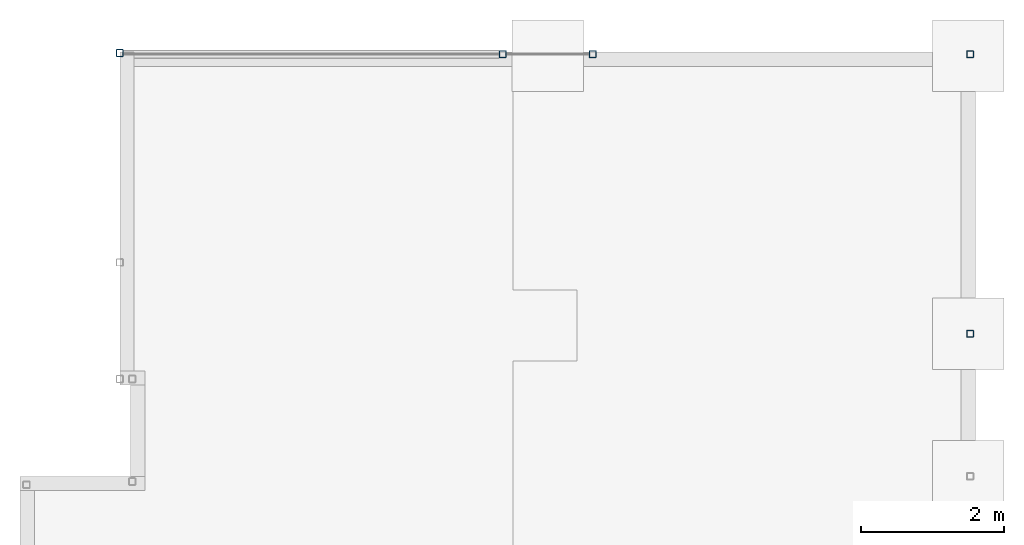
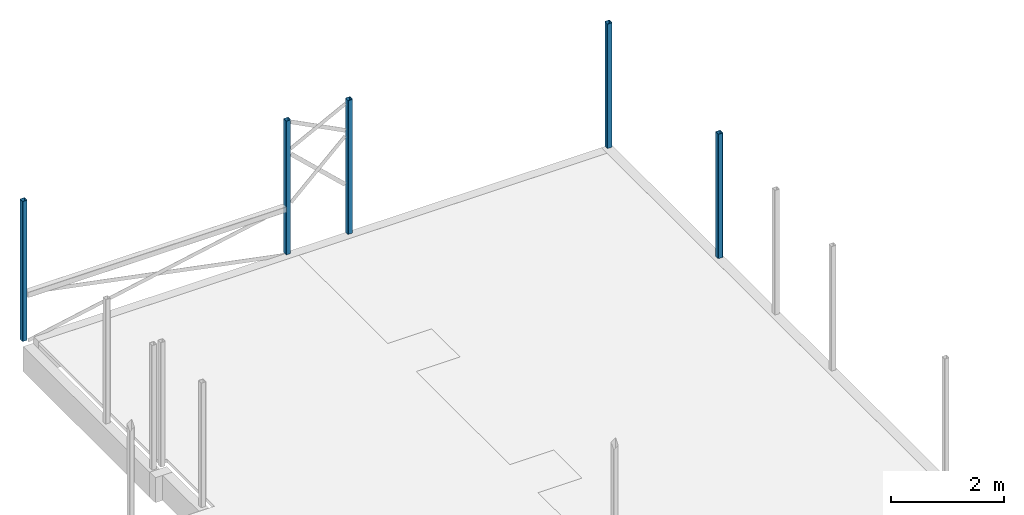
# One storey, part 3 of 5: 5 columns.
"""IFC2X3 building model written with IfcOpenShell, lengths in millimetres."""

from ifc_helpers import new_model, entity, si_unit, converted_unit, derived_unit, direction, frame, frame_2d, origin, place, context, subcontext, project, spatial, polyline, circle_curve, parameter, trimmed, segment, composite_curve, outline, extrude, source, transform, mapped, material, type_object, type_shapes, element, save


model = new_model("IFC2X3")

# Units and contexts
model_context = context("Model", 3, precision=0.01, world=origin(), true_north=direction((6.12303176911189e-17, 1.0)))
body_context = subcontext(model_context, "Body", "Model", "MODEL_VIEW")
ifc_project = project(units=[si_unit("LENGTHUNIT", "METRE", prefix="MILLI"), si_unit("AREAUNIT", "SQUARE_METRE"), si_unit("VOLUMEUNIT", "CUBIC_METRE"), converted_unit("PLANEANGLEUNIT", "DEGREE", entity("IfcRatioMeasure", 0.0174532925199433), si_unit("PLANEANGLEUNIT", "RADIAN"), dimensions=[0, 0, 0, 0, 0, 0, 0]), si_unit("MASSUNIT", "GRAM", prefix="KILO"), derived_unit("MASSDENSITYUNIT", [(si_unit("MASSUNIT", "GRAM", prefix="KILO"), 1), (si_unit("LENGTHUNIT", "METRE"), -3)]), si_unit("TIMEUNIT", "SECOND"), si_unit("FREQUENCYUNIT", "HERTZ"), si_unit("THERMODYNAMICTEMPERATUREUNIT", "DEGREE_CELSIUS"), derived_unit("THERMALTRANSMITTANCEUNIT", [(si_unit("MASSUNIT", "GRAM", prefix="KILO"), 1), (si_unit("THERMODYNAMICTEMPERATUREUNIT", "KELVIN"), -1), (si_unit("TIMEUNIT", "SECOND"), -3)]), derived_unit("VOLUMETRICFLOWRATEUNIT", [(si_unit("LENGTHUNIT", "METRE"), 3), (si_unit("TIMEUNIT", "SECOND"), -1)]), si_unit("ELECTRICCURRENTUNIT", "AMPERE"), si_unit("ELECTRICVOLTAGEUNIT", "VOLT"), si_unit("POWERUNIT", "WATT"), si_unit("FORCEUNIT", "NEWTON", prefix="KILO"), si_unit("ILLUMINANCEUNIT", "LUX"), si_unit("LUMINOUSFLUXUNIT", "LUMEN"), si_unit("LUMINOUSINTENSITYUNIT", "CANDELA"), derived_unit("USERDEFINED", [(si_unit("MASSUNIT", "GRAM", prefix="KILO"), -1), (si_unit("LENGTHUNIT", "METRE"), -2), (si_unit("TIMEUNIT", "SECOND"), 3), (si_unit("LUMINOUSFLUXUNIT", "LUMEN"), 1)]), derived_unit("LINEARVELOCITYUNIT", [(si_unit("LENGTHUNIT", "METRE"), 1), (si_unit("TIMEUNIT", "SECOND"), -1)]), si_unit("PRESSUREUNIT", "PASCAL"), derived_unit("USERDEFINED", [(si_unit("LENGTHUNIT", "METRE"), -2), (si_unit("MASSUNIT", "GRAM", prefix="KILO"), 1), (si_unit("TIMEUNIT", "SECOND"), -2)])], contexts=[model_context])

# Site, building, storey
site_placement = place(None, frame((0.0, 0.0, 101000.0)))
site = spatial("IfcSite", under=ifc_project, at=site_placement, Name="Default", CompositionType="ELEMENT")
building_placement = place(site_placement, origin())
building = spatial("IfcBuilding", under=site, at=building_placement, CompositionType="ELEMENT")
storey_placement = place(building_placement, origin())
storey = spatial("IfcBuildingStorey", under=building, at=storey_placement, Name="01", CompositionType="ELEMENT", Elevation=8.9295595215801e-10)

# Columns
ifc_material = material(Name="S355")
column_type_1 = type_object("IfcColumnType", Name="HUP 100x100x6.3", PredefinedType="COLUMN", material=ifc_material)
shared_shape_1 = source(origin(), body_context, "Body", "SweptSolid", [
    extrude(outline(composite_curve([segment(polyline([(-37.4000000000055, -50.0), (37.4000000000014, -50.0)]), True, "CONTINUOUS"), segment(trimmed(circle_curve(frame_2d((37.4000000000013, -37.3999999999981), x_axis=(-1.0, 0.0)), 12.6000000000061), [parameter(90.0000000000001)], [parameter(180.0)], True, "PARAMETER"), True, "CONTINUOUS"), segment(polyline([(50.0, -37.3999999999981), (50.0, 37.4000000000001)]), True, "CONTINUOUS"), segment(trimmed(circle_curve(frame_2d((37.4000000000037, 37.4000000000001), x_axis=(-1.0, 0.0)), 12.6000000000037), [parameter(180.0)], [parameter(270.0)], True, "PARAMETER"), True, "CONTINUOUS"), segment(polyline([(37.4000000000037, 50.0), (-37.4000000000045, 50.0)]), True, "CONTINUOUS"), segment(trimmed(circle_curve(frame_2d((-37.4000000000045, 37.4000000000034), x_axis=(-1.0, 0.0)), 12.6000000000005), [parameter(270.0)], [parameter(360.0)], True, "PARAMETER"), True, "CONTINUOUS"), segment(polyline([(-50.0, 37.4000000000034), (-50.0, -37.4000000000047)]), True, "CONTINUOUS"), segment(trimmed(circle_curve(frame_2d((-37.4000000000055, -37.4000000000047), x_axis=(-1.0, 0.0)), 12.5999999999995), [parameter(360.0)], [parameter(89.9999999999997)], True, "PARAMETER"), True, "CONTINUOUS")], self_intersect=False), holes=[composite_curve([segment(trimmed(circle_curve(frame_2d((-37.4000000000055, -37.4000000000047), x_axis=(-1.0, 0.0)), 6.2999999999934), [parameter(0.0)], [parameter(90.0)], True, "PARAMETER"), False, "CONTINUOUS"), segment(polyline([(-43.6999999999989, -37.4000000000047), (-43.6999999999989, 37.4000000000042)]), True, "CONTINUOUS"), segment(trimmed(circle_curve(frame_2d((-37.4000000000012, 37.4000000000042), x_axis=(-1.0, 0.0)), 6.29999999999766), [parameter(270.0)], [parameter(360.0)], True, "PARAMETER"), False, "CONTINUOUS"), segment(polyline([(-37.4000000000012, 43.7000000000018), (37.3999999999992, 43.7000000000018)]), True, "CONTINUOUS"), segment(trimmed(circle_curve(frame_2d((37.3999999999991, 37.3999999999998), x_axis=(-1.0, 0.0)), 6.30000000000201), [parameter(180.0)], [parameter(270.0)], True, "PARAMETER"), False, "CONTINUOUS"), segment(polyline([(43.7000000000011, 37.3999999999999), (43.7000000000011, -37.3999999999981)]), True, "CONTINUOUS"), segment(trimmed(circle_curve(frame_2d((37.4000000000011, -37.3999999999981), x_axis=(-1.0, 0.0)), 6.30000000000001), [parameter(90.0000000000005)], [parameter(180.0)], True, "PARAMETER"), False, "CONTINUOUS"), segment(polyline([(37.4000000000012, -43.6999999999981), (-37.4000000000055, -43.6999999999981)]), True, "CONTINUOUS")], self_intersect=False)]), frame((0.0, 0.0, 0.0), z_axis=(0.0, 0.0, 1.0), x_axis=(-1.0, 0.0, 0.0)), (0.0, 0.0, 1.0), 2684.99999999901),
])
type_shapes(column_type_1, [shared_shape_1])
for number, where, name in (
    (1, (23111.2644969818, 44337.9507529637, 0.0), "Søyle HUP:HUP 100x100x6.3"),
    (2, (23111.2644969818, 40417.9507529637, 0.0), "Søyle HUP:HUP 100x100x6.3"),
):
    element("IfcColumn", number, at=place(storey_placement, frame(where)), inside=storey, type_object=column_type_1, material=ifc_material, Name=name, ObjectType="HUP 100x100x6.3", context=body_context, shape_type="MappedRepresentation", body=[
        mapped(shared_shape_1, transform((0.0, 0.0, 0.0), scale=1.0)),
    ])
column_type_2 = type_object("IfcColumnType", Name="HUP 100x100x6.3", PredefinedType="COLUMN", material=ifc_material)
shared_shape_2 = source(origin(), body_context, "Body", "SweptSolid", [
    extrude(outline(composite_curve([segment(polyline([(-37.4000000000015, -50.0), (37.4000000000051, -50.0)]), True, "CONTINUOUS"), segment(trimmed(circle_curve(frame_2d((37.4000000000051, -37.4000000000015), x_axis=(-1.0, 0.0)), 12.6000000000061), [parameter(90.0000000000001)], [parameter(180.0)], True, "PARAMETER"), True, "CONTINUOUS"), segment(polyline([(50.0, -37.4000000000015), (50.0, 37.4000000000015)]), True, "CONTINUOUS"), segment(trimmed(circle_curve(frame_2d((37.4000000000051, 37.4000000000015), x_axis=(-1.0, 0.0)), 12.6000000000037), [parameter(180.0)], [parameter(270.0)], True, "PARAMETER"), True, "CONTINUOUS"), segment(polyline([(37.4000000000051, 50.0), (-37.4000000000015, 50.0)]), True, "CONTINUOUS"), segment(trimmed(circle_curve(frame_2d((-37.4000000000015, 37.4000000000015), x_axis=(-1.0, 0.0)), 12.6000000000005), [parameter(270.0)], [parameter(360.0)], True, "PARAMETER"), True, "CONTINUOUS"), segment(polyline([(-50.0, 37.4000000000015), (-50.0, -37.4000000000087)]), True, "CONTINUOUS"), segment(trimmed(circle_curve(frame_2d((-37.4000000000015, -37.4000000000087), x_axis=(-1.0, 0.0)), 12.5999999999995), [parameter(360.0)], [parameter(89.9999999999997)], True, "PARAMETER"), True, "CONTINUOUS")], self_intersect=False), holes=[composite_curve([segment(trimmed(circle_curve(frame_2d((-37.4000000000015, -37.4000000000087), x_axis=(-1.0, 0.0)), 6.2999999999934), [parameter(0.0)], [parameter(90.0)], True, "PARAMETER"), False, "CONTINUOUS"), segment(polyline([(-43.6999999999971, -37.4000000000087), (-43.6999999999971, 37.4000000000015)]), True, "CONTINUOUS"), segment(trimmed(circle_curve(frame_2d((-37.3999999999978, 37.4000000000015), x_axis=(-1.0, 0.0)), 6.29999999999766), [parameter(270.0)], [parameter(360.0)], True, "PARAMETER"), False, "CONTINUOUS"), segment(polyline([(-37.3999999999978, 43.7000000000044), (37.4000000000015, 43.7000000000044)]), True, "CONTINUOUS"), segment(trimmed(circle_curve(frame_2d((37.4000000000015, 37.4000000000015), x_axis=(-1.0, 0.0)), 6.30000000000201), [parameter(180.0)], [parameter(270.0)], True, "PARAMETER"), False, "CONTINUOUS"), segment(polyline([(43.7000000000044, 37.4000000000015), (43.7000000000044, -37.4000000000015)]), True, "CONTINUOUS"), segment(trimmed(circle_curve(frame_2d((37.4000000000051, -37.4000000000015), x_axis=(-1.0, 0.0)), 6.30000000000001), [parameter(90.0000000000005)], [parameter(180.0)], True, "PARAMETER"), False, "CONTINUOUS"), segment(polyline([(37.4000000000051, -43.6999999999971), (-37.4000000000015, -43.6999999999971)]), True, "CONTINUOUS")], self_intersect=False)]), frame((16555.2902080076, 44337.9507529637, 0.0), z_axis=(0.0, 0.0, 1.0), x_axis=(-1.0, 0.0, 0.0)), (0.0, 0.0, 1.0), 2884.99999999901),
])
type_shapes(column_type_2, [shared_shape_2])
column_1_placement = place(storey_placement, origin())
element("IfcColumn", 3, at=column_1_placement, inside=storey, type_object=column_type_2, material=ifc_material, Name="Søyle HUP:HUP 100x100x6.3", ObjectType="HUP 100x100x6.3", context=body_context, shape_type="MappedRepresentation", body=[
    mapped(shared_shape_2, transform((0.0, 0.0, 0.0), scale=1.0)),
])
column_type_3 = type_object("IfcColumnType", Name="HUP 100x100x6.3", PredefinedType="COLUMN", material=ifc_material)
shared_shape_3 = source(origin(), body_context, "Body", "SweptSolid", [
    extrude(outline(composite_curve([segment(polyline([(-37.4000000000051, -50.0), (37.4000000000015, -50.0)]), True, "CONTINUOUS"), segment(trimmed(circle_curve(frame_2d((37.4000000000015, -37.4000000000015), x_axis=(-1.0, 0.0)), 12.6000000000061), [parameter(90.0000000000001)], [parameter(180.0)], True, "PARAMETER"), True, "CONTINUOUS"), segment(polyline([(50.0, -37.4000000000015), (50.0, 37.4000000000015)]), True, "CONTINUOUS"), segment(trimmed(circle_curve(frame_2d((37.4000000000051, 37.4000000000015), x_axis=(-1.0, 0.0)), 12.6000000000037), [parameter(180.0)], [parameter(270.0)], True, "PARAMETER"), True, "CONTINUOUS"), segment(polyline([(37.4000000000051, 50.0), (-37.4000000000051, 50.0)]), True, "CONTINUOUS"), segment(trimmed(circle_curve(frame_2d((-37.4000000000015, 37.4000000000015), x_axis=(-1.0, 0.0)), 12.6000000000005), [parameter(270.0)], [parameter(360.0)], True, "PARAMETER"), True, "CONTINUOUS"), segment(polyline([(-50.0, 37.4000000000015), (-50.0, -37.4000000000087)]), True, "CONTINUOUS"), segment(trimmed(circle_curve(frame_2d((-37.4000000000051, -37.4000000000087), x_axis=(-1.0, 0.0)), 12.5999999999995), [parameter(360.0)], [parameter(89.9999999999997)], True, "PARAMETER"), True, "CONTINUOUS")], self_intersect=False), holes=[composite_curve([segment(trimmed(circle_curve(frame_2d((-37.4000000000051, -37.4000000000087), x_axis=(-1.0, 0.0)), 6.2999999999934), [parameter(0.0)], [parameter(90.0)], True, "PARAMETER"), False, "CONTINUOUS"), segment(polyline([(-43.7000000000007, -37.4000000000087), (-43.7000000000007, 37.4000000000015)]), True, "CONTINUOUS"), segment(trimmed(circle_curve(frame_2d((-37.4000000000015, 37.4000000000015), x_axis=(-1.0, 0.0)), 6.29999999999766), [parameter(270.0)], [parameter(360.0)], True, "PARAMETER"), False, "CONTINUOUS"), segment(polyline([(-37.4000000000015, 43.6999999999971), (37.4000000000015, 43.6999999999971)]), True, "CONTINUOUS"), segment(trimmed(circle_curve(frame_2d((37.4000000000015, 37.4000000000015), x_axis=(-1.0, 0.0)), 6.30000000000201), [parameter(180.0)], [parameter(270.0)], True, "PARAMETER"), False, "CONTINUOUS"), segment(polyline([(43.7000000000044, 37.4000000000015), (43.7000000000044, -37.4000000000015)]), True, "CONTINUOUS"), segment(trimmed(circle_curve(frame_2d((37.4000000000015, -37.4000000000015), x_axis=(-1.0, 0.0)), 6.30000000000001), [parameter(90.0000000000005)], [parameter(180.0)], True, "PARAMETER"), False, "CONTINUOUS"), segment(polyline([(37.4000000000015, -43.6999999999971), (-37.4000000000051, -43.6999999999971)]), True, "CONTINUOUS")], self_intersect=False)]), frame((17817.2389636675, 44337.9507529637, 0.0), z_axis=(0.0, 0.0, 1.0), x_axis=(-1.0, 0.0, 0.0)), (0.0, 0.0, 1.0), 2884.99999999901),
])
type_shapes(column_type_3, [shared_shape_3])
column_2_placement = place(storey_placement, origin())
element("IfcColumn", 4, at=column_2_placement, inside=storey, type_object=column_type_3, material=ifc_material, Name="Søyle HUP:HUP 100x100x6.3", ObjectType="HUP 100x100x6.3", context=body_context, shape_type="MappedRepresentation", body=[
    mapped(shared_shape_3, transform((0.0, 0.0, 0.0), scale=1.0)),
])
column_type_4 = type_object("IfcColumnType", Name="HUP 100x100x6.3", PredefinedType="COLUMN", material=ifc_material)
shared_shape_4 = source(origin(), body_context, "Body", "SweptSolid", [
    extrude(outline(composite_curve([segment(polyline([(-37.4000000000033, -50.0), (37.4000000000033, -50.0)]), True, "CONTINUOUS"), segment(trimmed(circle_curve(frame_2d((37.4000000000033, -37.4000000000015), x_axis=(-1.0, 0.0)), 12.6000000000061), [parameter(90.0000000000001)], [parameter(180.0)], True, "PARAMETER"), True, "CONTINUOUS"), segment(polyline([(50.0, -37.4000000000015), (50.0, 37.4000000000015)]), True, "CONTINUOUS"), segment(trimmed(circle_curve(frame_2d((37.4000000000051, 37.4000000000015), x_axis=(-1.0, 0.0)), 12.6000000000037), [parameter(180.0)], [parameter(270.0)], True, "PARAMETER"), True, "CONTINUOUS"), segment(polyline([(37.4000000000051, 50.0), (-37.4000000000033, 50.0)]), True, "CONTINUOUS"), segment(trimmed(circle_curve(frame_2d((-37.4000000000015, 37.4000000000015), x_axis=(-1.0, 0.0)), 12.6000000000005), [parameter(270.0)], [parameter(360.0)], True, "PARAMETER"), True, "CONTINUOUS"), segment(polyline([(-50.0, 37.4000000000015), (-50.0, -37.4000000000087)]), True, "CONTINUOUS"), segment(trimmed(circle_curve(frame_2d((-37.4000000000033, -37.4000000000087), x_axis=(-1.0, 0.0)), 12.5999999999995), [parameter(360.0)], [parameter(89.9999999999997)], True, "PARAMETER"), True, "CONTINUOUS")], self_intersect=False), holes=[composite_curve([segment(trimmed(circle_curve(frame_2d((-37.4000000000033, -37.4000000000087), x_axis=(-1.0, 0.0)), 6.2999999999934), [parameter(0.0)], [parameter(90.0)], True, "PARAMETER"), False, "CONTINUOUS"), segment(polyline([(-43.6999999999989, -37.4000000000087), (-43.6999999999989, 37.4000000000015)]), True, "CONTINUOUS"), segment(trimmed(circle_curve(frame_2d((-37.3999999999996, 37.4000000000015), x_axis=(-1.0, 0.0)), 6.29999999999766), [parameter(270.0)], [parameter(360.0)], True, "PARAMETER"), False, "CONTINUOUS"), segment(polyline([(-37.3999999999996, 43.6999999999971), (37.4000000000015, 43.6999999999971)]), True, "CONTINUOUS"), segment(trimmed(circle_curve(frame_2d((37.4000000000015, 37.4000000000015), x_axis=(-1.0, 0.0)), 6.30000000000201), [parameter(180.0)], [parameter(270.0)], True, "PARAMETER"), False, "CONTINUOUS"), segment(polyline([(43.7000000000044, 37.4000000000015), (43.7000000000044, -37.4000000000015)]), True, "CONTINUOUS"), segment(trimmed(circle_curve(frame_2d((37.4000000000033, -37.4000000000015), x_axis=(-1.0, 0.0)), 6.30000000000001), [parameter(90.0000000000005)], [parameter(180.0)], True, "PARAMETER"), False, "CONTINUOUS"), segment(polyline([(37.4000000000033, -43.6999999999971), (-37.4000000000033, -43.6999999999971)]), True, "CONTINUOUS")], self_intersect=False)]), frame((11186.2644969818, 44354.9335651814, 0.0), z_axis=(0.0, 0.0, 1.0), x_axis=(-1.0, 0.0, 0.0)), (0.0, 0.0, 1.0), 3019.99999999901),
])
type_shapes(column_type_4, [shared_shape_4])
column_3_placement = place(storey_placement, origin())
element("IfcColumn", 5, at=column_3_placement, inside=storey, type_object=column_type_4, material=ifc_material, Name="Søyle HUP:HUP 100x100x6.3", ObjectType="HUP 100x100x6.3", context=body_context, shape_type="MappedRepresentation", body=[
    mapped(shared_shape_4, transform((0.0, 0.0, 0.0), scale=1.0)),
])

save(model, "model.ifc")
